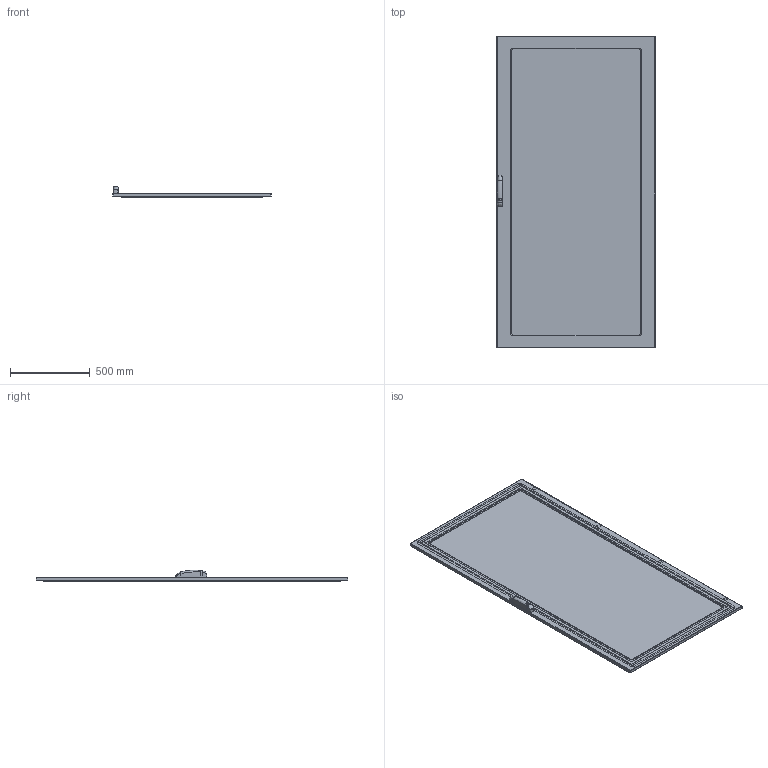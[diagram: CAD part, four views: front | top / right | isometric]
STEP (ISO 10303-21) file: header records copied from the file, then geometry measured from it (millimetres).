
FILE_DESCRIPTION (( 'STEP AP203' ), '1' );
FILE_NAME ('EUPV100200.STEP', '2021-03-15T12:35:24', ( '' ), ( '' ), 'SwSTEP 2.0', 'SolidWorks 2019', '' );
FILE_SCHEMA (( 'CONFIG_CONTROL_DESIGN' ));
Length unit declared in the file: millimetre
Products named in the file (4): EUPV100200; AR_ENUX_Porta_singola_plexi_1000x2000_ANT; AR_ENUX_Plexiglass_porte_1000x2000; AR_ENUX_nuova_maniglia_mesan
Assembly tree (3 placements, depth 2):
  EUPV100200
    AR_ENUX_Porta_singola_plexi_1000x2000_ANT
    AR_ENUX_Plexiglass_porte_1000x2000
    AR_ENUX_nuova_maniglia_mesan
Bounding box: 995 x 1960 x 72 mm (x, y, z)
Volume: 8648558.7 mm3; surface area: 5114184.2 mm2
Topology: 3 solids, 3 shells, 925 faces, 2688 edges, 1770 vertices
Faces by surface type: cylinder 588, plane 290, bspline 25, torus 14, sphere 8
Entity records: 35699 total; most frequent: CARTESIAN_POINT 9069, DIRECTION 5633, ORIENTED_EDGE 5352, EDGE_CURVE 2676, AXIS2_PLACEMENT_3D 2109, VERTEX_POINT 1770, LINE 1415, VECTOR 1415
